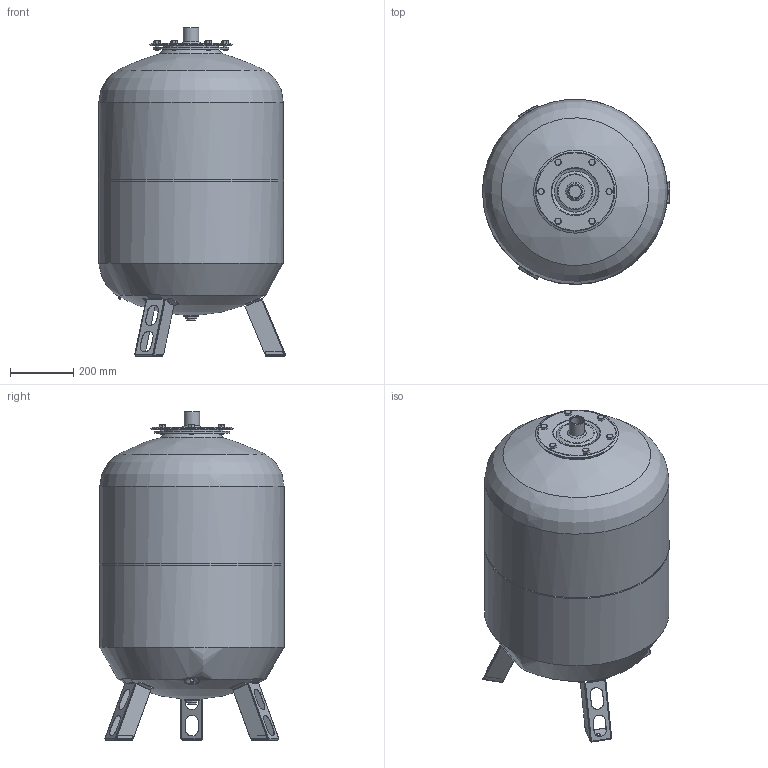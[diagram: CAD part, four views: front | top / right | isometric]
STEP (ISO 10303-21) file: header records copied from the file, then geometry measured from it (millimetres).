
FILE_DESCRIPTION(('STEP AP214'), '1');
FILE_NAME('WAV-200', '', ('UNSPECIFIED'), ('UNSPECIFIED'), 'ASCON STEP Converter 1.3', 'ASCON Math Kernel', '');
FILE_SCHEMA(('AUTOMOTIVE_DESIGN { 1 0 10303 214 3 1 1}'));
Length unit declared in the file: millimetre
Bounding box: 593.13 x 586.48 x 1040 mm (x, y, z)
Volume: 198119356.5 mm3; surface area: 2108636 mm2
Topology: 1 solids, 2 shells, 424 faces, 1129 edges, 740 vertices
Faces by surface type: plane 256, cylinder 97, cone 53, torus 13, bspline 3, sphere 2
Full cylindrical faces by diameter (mm): 3 x1, 4 x1, 4.3 x1, 5.5 x1, 8 x2, 12 x15, 13 x6, 18.6 x1, 26.4 x1, 38.952 x1, 47 x1, 48 x1, 49 x1, 173 x1, 240 x1, 585 x2
Entity records: 20581 total; most frequent: CARTESIAN_POINT 6910, ORIENTED_EDGE 2082, DIRECTION 2059, EDGE_CURVE 1041, AXIS2_PLACEMENT_3D 761, VERTEX_POINT 739, EDGE_LOOP 574, LINE 537
